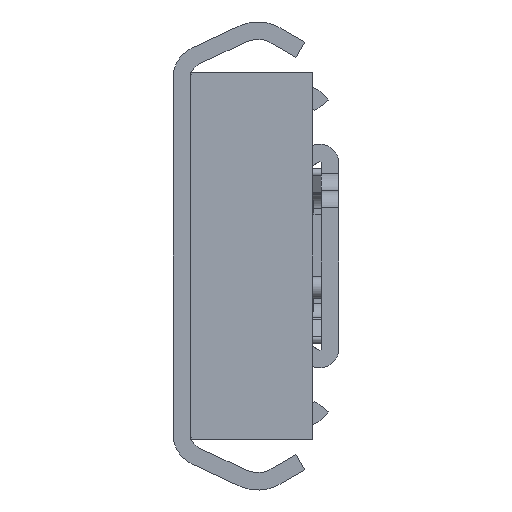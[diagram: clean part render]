
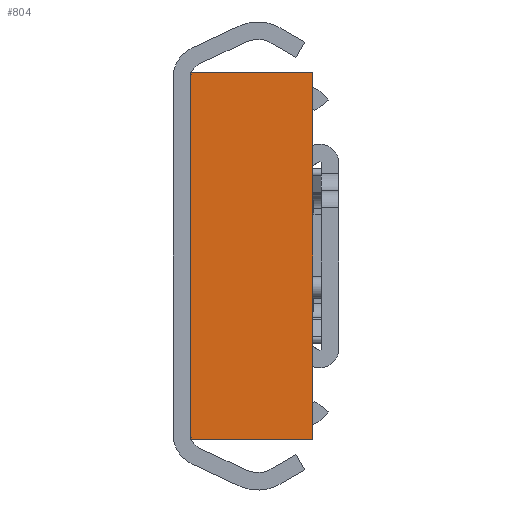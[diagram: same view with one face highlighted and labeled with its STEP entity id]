
A CAD part, front view. The second image highlights one B-rep face of the part: STEP entity #804.
In plain terms, the highlighted planar face has unit normal (0, -1, 0).
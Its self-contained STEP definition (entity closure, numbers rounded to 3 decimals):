
#804 = ADVANCED_FACE( '', ( #1853 ), #1854, .F. );
#1853 = FACE_OUTER_BOUND( '', #3248, .T. );
#1854 = PLANE( '', #3249 );
#3248 = EDGE_LOOP( '', ( #5272, #5273, #5274, #5275 ) );
#3249 = AXIS2_PLACEMENT_3D( '', #5276, #5277, #5278 );
#5272 = ORIENTED_EDGE( '', *, *, #9186, .T. );
#5273 = ORIENTED_EDGE( '', *, *, #9187, .F. );
#5274 = ORIENTED_EDGE( '', *, *, #8686, .F. );
#5275 = ORIENTED_EDGE( '', *, *, #9188, .T. );
#5276 = CARTESIAN_POINT( '', ( 14., -47.25, 21. ) );
#5277 = DIRECTION( '', ( 0., 1., 0. ) );
#5278 = DIRECTION( '', ( 0., 0., 1. ) );
#8686 = EDGE_CURVE( '', #10453, #10454, #10455, .T. );
#9186 = EDGE_CURVE( '', #11318, #11319, #11320, .T. );
#9187 = EDGE_CURVE( '', #10454, #11319, #11321, .T. );
#9188 = EDGE_CURVE( '', #10453, #11318, #11322, .T. );
#10453 = VERTEX_POINT( '', #13135 );
#10454 = VERTEX_POINT( '', #13136 );
#10455 = LINE( '', #13137, #13138 );
#11318 = VERTEX_POINT( '', #14685 );
#11319 = VERTEX_POINT( '', #14686 );
#11320 = LINE( '', #14687, #14688 );
#11321 = LINE( '', #14689, #14690 );
#11322 = LINE( '', #14691, #14692 );
#13135 = CARTESIAN_POINT( '', ( 14., -47.25, 21. ) );
#13136 = CARTESIAN_POINT( '', ( 14., -47.25, -21. ) );
#13137 = CARTESIAN_POINT( '', ( 14., -47.25, 21. ) );
#13138 = VECTOR( '', #17385, 1000. );
#14685 = CARTESIAN_POINT( '', ( 0., -47.25, 21. ) );
#14686 = CARTESIAN_POINT( '', ( 0., -47.25, -21. ) );
#14687 = CARTESIAN_POINT( '', ( 0., -47.25, 21. ) );
#14688 = VECTOR( '', #18095, 1000. );
#14689 = CARTESIAN_POINT( '', ( 14., -47.25, -21. ) );
#14690 = VECTOR( '', #18096, 1000. );
#14691 = CARTESIAN_POINT( '', ( 14., -47.25, 21. ) );
#14692 = VECTOR( '', #18097, 1000. );
#17385 = DIRECTION( '', ( 0., 0., -1. ) );
#18095 = DIRECTION( '', ( 0., 0., -1. ) );
#18096 = DIRECTION( '', ( -1., 0., 0. ) );
#18097 = DIRECTION( '', ( -1., 0., 0. ) );
